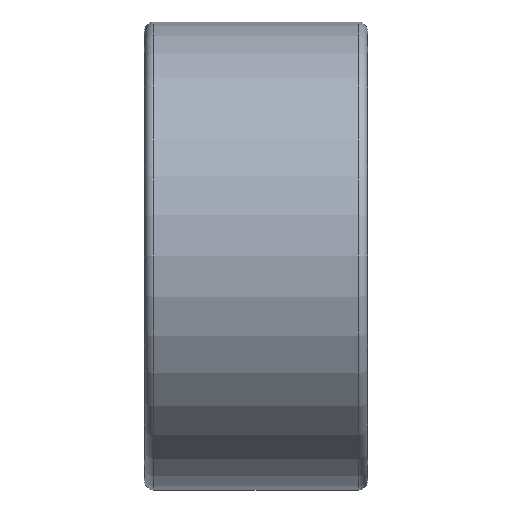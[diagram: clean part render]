
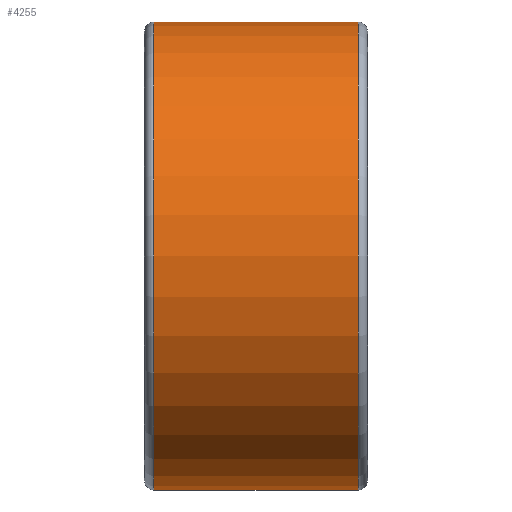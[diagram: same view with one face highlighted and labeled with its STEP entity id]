
A CAD part, front view. The second image highlights one B-rep face of the part: STEP entity #4255.
In plain terms, the highlighted cylindrical face has radius 15 mm (diameter 30 mm), a full revolution.
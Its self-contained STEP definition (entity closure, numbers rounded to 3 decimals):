
#751=LINE('',#11263,#924);
#924=VECTOR('',#5738,15.);
#969=CYLINDRICAL_SURFACE('',#4776,15.);
#1185=FACE_OUTER_BOUND('',#1411,.T.);
#1411=EDGE_LOOP('',(#3984,#3985,#3986,#3987,#3988,#3989));
#1654=CIRCLE('',#4773,15.);
#1655=CIRCLE('',#4774,15.);
#1657=CIRCLE('',#4777,15.);
#1658=CIRCLE('',#4778,15.);
#2088=VERTEX_POINT('',#11254);
#2089=VERTEX_POINT('',#11255);
#2090=VERTEX_POINT('',#11260);
#2091=VERTEX_POINT('',#11261);
#2722=EDGE_CURVE('',#2088,#2089,#1654,.T.);
#2723=EDGE_CURVE('',#2089,#2088,#1655,.T.);
#2725=EDGE_CURVE('',#2090,#2091,#1657,.T.);
#2726=EDGE_CURVE('',#2090,#2089,#751,.T.);
#2727=EDGE_CURVE('',#2091,#2090,#1658,.T.);
#3984=ORIENTED_EDGE('',*,*,#2725,.F.);
#3985=ORIENTED_EDGE('',*,*,#2726,.T.);
#3986=ORIENTED_EDGE('',*,*,#2722,.F.);
#3987=ORIENTED_EDGE('',*,*,#2723,.F.);
#3988=ORIENTED_EDGE('',*,*,#2726,.F.);
#3989=ORIENTED_EDGE('',*,*,#2727,.F.);
#4255=ADVANCED_FACE('',(#1185),#969,.T.);
#4773=AXIS2_PLACEMENT_3D('',#11256,#5728,#5729);
#4774=AXIS2_PLACEMENT_3D('',#11257,#5730,#5731);
#4776=AXIS2_PLACEMENT_3D('',#11259,#5734,#5735);
#4777=AXIS2_PLACEMENT_3D('',#11262,#5736,#5737);
#4778=AXIS2_PLACEMENT_3D('',#11264,#5739,#5740);
#5728=DIRECTION('center_axis',(-1.,0.,0.));
#5729=DIRECTION('ref_axis',(0.,-1.,0.));
#5730=DIRECTION('center_axis',(-1.,0.,0.));
#5731=DIRECTION('ref_axis',(0.,-1.,0.));
#5734=DIRECTION('center_axis',(1.,0.,0.));
#5735=DIRECTION('ref_axis',(0.,1.,0.));
#5736=DIRECTION('center_axis',(1.,0.,0.));
#5737=DIRECTION('ref_axis',(0.,-1.,0.));
#5738=DIRECTION('',(-1.,0.,0.));
#5739=DIRECTION('center_axis',(1.,0.,0.));
#5740=DIRECTION('ref_axis',(0.,-1.,0.));
#11254=CARTESIAN_POINT('',(-6.55,0.,15.));
#11255=CARTESIAN_POINT('',(-6.55,-15.,0.));
#11256=CARTESIAN_POINT('Origin',(-6.55,0.,0.));
#11257=CARTESIAN_POINT('Origin',(-6.55,0.,0.));
#11259=CARTESIAN_POINT('Origin',(0.,0.,
0.));
#11260=CARTESIAN_POINT('',(6.55,-15.,0.));
#11261=CARTESIAN_POINT('',(6.55,0.,15.));
#11262=CARTESIAN_POINT('Origin',(6.55,0.,0.));
#11263=CARTESIAN_POINT('',(0.,-15.,0.));
#11264=CARTESIAN_POINT('Origin',(6.55,0.,0.));
